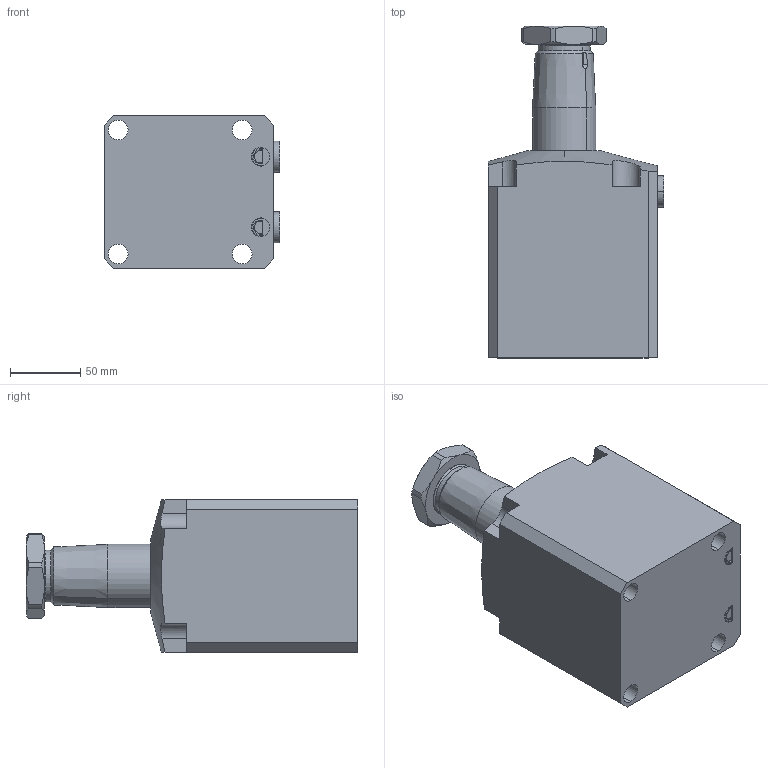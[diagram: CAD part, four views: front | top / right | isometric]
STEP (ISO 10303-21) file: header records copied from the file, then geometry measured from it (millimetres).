
FILE_DESCRIPTION(/* description */ (''),/* implementation_level */ '2;1');
FILE_NAME(/* name */ 'BRC25-LN45.stp',/* time_stamp */ '2025-01-05T09:15:59+08:00',/* author */ (''),/* organization */ (''),/* preprocessor_version */ 'ST-DEVELOPER v16.7',/* originating_system */ 'SIEMENS PLM Software NX 12.0',/* authorisation */ '');
FILE_SCHEMA (('AUTOMOTIVE_DESIGN { 1 0 10303 214 3 1 1 1 }'));
Length unit declared in the file: millimetre
Products named in the file (5): BRC25-LN45-03; BRC25-LN45-04; BRC25-LN45-02; BRC25-LN45-01; BRC25-LN45_stp
Assembly tree (5 placements, depth 2):
  BRC25-LN45_stp
    BRC25-LN45-01
    BRC25-LN45-02
    BRC25-LN45-04  x2
    BRC25-LN45-03
Bounding box: 124.8 x 235.4 x 108 mm (x, y, z)
Volume: 1831594.1 mm3; surface area: 139294.4 mm2
Topology: 7 solids, 7 shells, 190 faces, 443 edges, 276 vertices
Faces by surface type: plane 72, cylinder 61, cone 34, torus 22, sphere 1
Full cylindrical faces by diameter (mm): 13 x2
Entity records: 5343 total; most frequent: CARTESIAN_POINT 1272, DIRECTION 850, ORIENTED_EDGE 796, EDGE_CURVE 398, AXIS2_PLACEMENT_3D 341, VERTEX_POINT 250, EDGE_LOOP 194, ADVANCED_FACE 170
